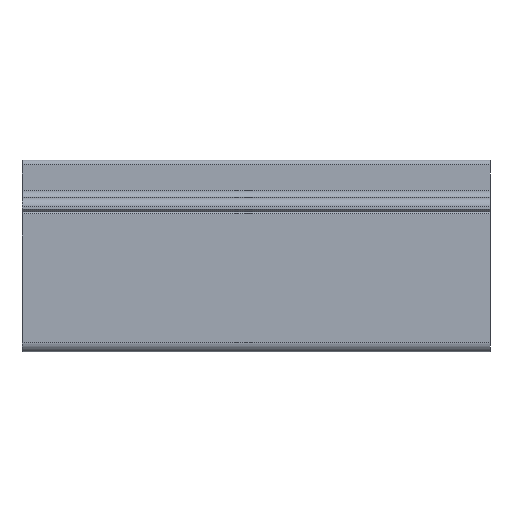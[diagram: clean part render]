
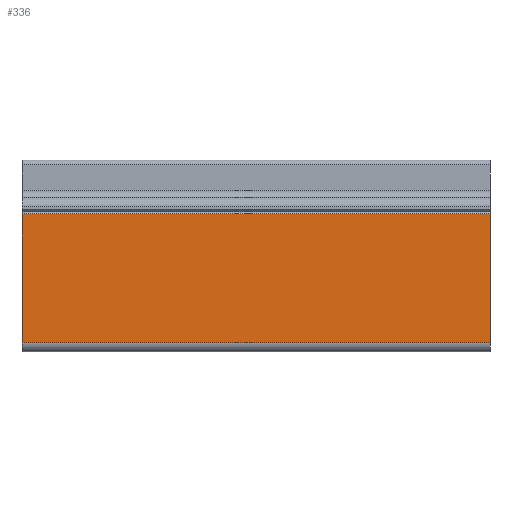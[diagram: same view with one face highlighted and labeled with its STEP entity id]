
A CAD part, front view. The second image highlights one B-rep face of the part: STEP entity #336.
In plain terms, the highlighted planar face has unit normal (0, -1, 0).
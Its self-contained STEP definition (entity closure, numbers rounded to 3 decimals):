
#44 = AXIS2_PLACEMENT_3D ( 'NONE', #1629, #1639, #146 ) ;
#124 = LINE ( 'NONE', #419, #2755 ) ;
#143 = CARTESIAN_POINT ( 'NONE',  ( 100., -30., 29.5 ) ) ;
#146 = DIRECTION ( 'NONE',  ( 0., 0., 1. ) ) ;
#237 = CARTESIAN_POINT ( 'NONE',  ( 100., -30., 2. ) ) ;
#289 = VERTEX_POINT ( 'NONE', #3166 ) ;
#336 = ADVANCED_FACE ( 'NONE', ( #2211 ), #1141, .F. ) ;
#391 = VECTOR ( 'NONE', #3226, 1000. ) ;
#419 = CARTESIAN_POINT ( 'NONE',  ( 100., -30., 29.5 ) ) ;
#479 = LINE ( 'NONE', #143, #1728 ) ;
#510 = EDGE_CURVE ( 'NONE', #1521, #2791, #1049, .T. ) ;
#520 = EDGE_CURVE ( 'NONE', #1330, #289, #479, .T. ) ;
#627 = ORIENTED_EDGE ( 'NONE', *, *, #2358, .F. ) ;
#676 = DIRECTION ( 'NONE',  ( -1., 0., 0. ) ) ;
#737 = ORIENTED_EDGE ( 'NONE', *, *, #510, .T. ) ;
#1049 = LINE ( 'NONE', #1923, #391 ) ;
#1068 = CARTESIAN_POINT ( 'NONE',  ( 0., -30., 2. ) ) ;
#1141 = PLANE ( 'NONE',  #44 ) ;
#1330 = VERTEX_POINT ( 'NONE', #2551 ) ;
#1521 = VERTEX_POINT ( 'NONE', #2984 ) ;
#1629 = CARTESIAN_POINT ( 'NONE',  ( 100., -30., 29.5 ) ) ;
#1639 = DIRECTION ( 'NONE',  ( 0., 1., 0. ) ) ;
#1653 = DIRECTION ( 'NONE',  ( 0., 0., -1. ) ) ;
#1728 = VECTOR ( 'NONE', #1653, 1000. ) ;
#1808 = LINE ( 'NONE', #237, #2588 ) ;
#1883 = EDGE_LOOP ( 'NONE', ( #737, #627, #2007, #2272 ) ) ;
#1923 = CARTESIAN_POINT ( 'NONE',  ( 0., -30., 29.5 ) ) ;
#1937 = EDGE_CURVE ( 'NONE', #1330, #1521, #124, .T. ) ;
#2001 = DIRECTION ( 'NONE',  ( -1., 0., 0. ) ) ;
#2007 = ORIENTED_EDGE ( 'NONE', *, *, #520, .F. ) ;
#2211 = FACE_OUTER_BOUND ( 'NONE', #1883, .T. ) ;
#2272 = ORIENTED_EDGE ( 'NONE', *, *, #1937, .T. ) ;
#2358 = EDGE_CURVE ( 'NONE', #289, #2791, #1808, .T. ) ;
#2551 = CARTESIAN_POINT ( 'NONE',  ( 100., -30., 29.5 ) ) ;
#2588 = VECTOR ( 'NONE', #2001, 1000. ) ;
#2755 = VECTOR ( 'NONE', #676, 1000. ) ;
#2791 = VERTEX_POINT ( 'NONE', #1068 ) ;
#2984 = CARTESIAN_POINT ( 'NONE',  ( 0., -30., 29.5 ) ) ;
#3166 = CARTESIAN_POINT ( 'NONE',  ( 100., -30., 2. ) ) ;
#3226 = DIRECTION ( 'NONE',  ( 0., 0., -1. ) ) ;
